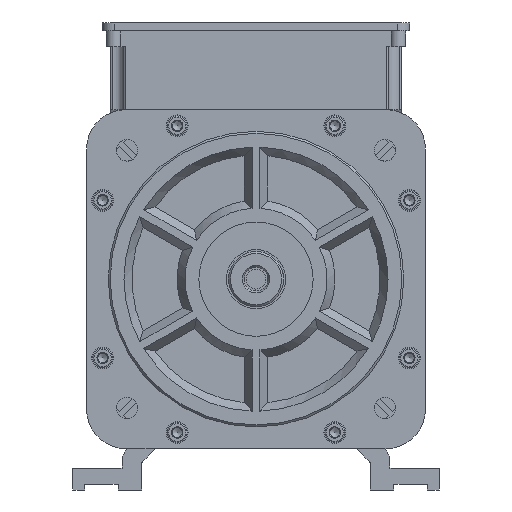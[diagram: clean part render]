
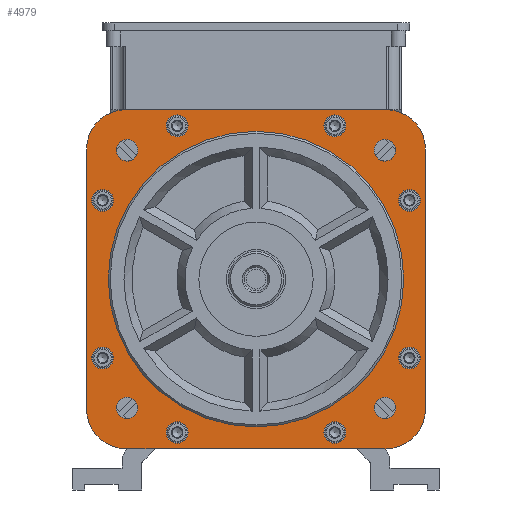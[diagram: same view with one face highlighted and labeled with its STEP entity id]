
A CAD part, front view. The second image highlights one B-rep face of the part: STEP entity #4979.
In plain terms, the highlighted planar face has unit normal (0, -1, 0).
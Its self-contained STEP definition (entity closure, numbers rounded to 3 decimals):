
#3203=FACE_BOUND('',#10745,.T.);
#3204=FACE_BOUND('',#10746,.T.);
#3205=FACE_BOUND('',#10747,.T.);
#3206=FACE_BOUND('',#10748,.T.);
#3207=FACE_BOUND('',#10749,.T.);
#3208=FACE_BOUND('',#10750,.T.);
#3209=FACE_BOUND('',#10751,.T.);
#3210=FACE_BOUND('',#10752,.T.);
#3211=FACE_BOUND('',#10753,.T.);
#3212=FACE_BOUND('',#10754,.T.);
#3213=FACE_BOUND('',#10755,.T.);
#3214=FACE_BOUND('',#10756,.T.);
#3215=FACE_BOUND('',#10757,.T.);
#3216=FACE_BOUND('',#10758,.T.);
#3855=CIRCLE('',#43216,20.);
#3856=CIRCLE('',#43217,20.);
#3857=CIRCLE('',#43218,20.);
#3858=CIRCLE('',#43219,20.);
#3859=CIRCLE('',#43220,5.5);
#3860=CIRCLE('',#43221,5.5);
#3861=CIRCLE('',#43222,5.5);
#3862=CIRCLE('',#43223,5.5);
#3863=CIRCLE('',#43224,5.5);
#3864=CIRCLE('',#43225,5.5);
#3865=CIRCLE('',#43226,5.5);
#3866=CIRCLE('',#43227,5.5);
#3867=CIRCLE('',#43228,5.5);
#3868=CIRCLE('',#43229,5.5);
#3869=CIRCLE('',#43230,5.5);
#3870=CIRCLE('',#43231,5.5);
#3871=CIRCLE('',#43232,75.);
#4979=ADVANCED_FACE('',(#3203,#3204,#3205,#3206,#3207,#3208,#3209,#3210,
#3211,#3212,#3213,#3214,#3215,#3216),#7284,.F.);
#7284=PLANE('',#43233);
#10745=EDGE_LOOP('',(#13695,#13696,#13697,#13698,#13699,#13700,#13701,#13702,
#13703,#13704));
#10746=EDGE_LOOP('',(#13705));
#10747=EDGE_LOOP('',(#13706));
#10748=EDGE_LOOP('',(#13707));
#10749=EDGE_LOOP('',(#13708));
#10750=EDGE_LOOP('',(#13709));
#10751=EDGE_LOOP('',(#13710));
#10752=EDGE_LOOP('',(#13711));
#10753=EDGE_LOOP('',(#13712));
#10754=EDGE_LOOP('',(#13713));
#10755=EDGE_LOOP('',(#13714));
#10756=EDGE_LOOP('',(#13715));
#10757=EDGE_LOOP('',(#13716));
#10758=EDGE_LOOP('',(#13717));
#13695=ORIENTED_EDGE('',*,*,#30085,.T.);
#13696=ORIENTED_EDGE('',*,*,#30086,.T.);
#13697=ORIENTED_EDGE('',*,*,#30087,.F.);
#13698=ORIENTED_EDGE('',*,*,#30088,.F.);
#13699=ORIENTED_EDGE('',*,*,#30089,.T.);
#13700=ORIENTED_EDGE('',*,*,#30090,.F.);
#13701=ORIENTED_EDGE('',*,*,#30091,.T.);
#13702=ORIENTED_EDGE('',*,*,#30092,.T.);
#13703=ORIENTED_EDGE('',*,*,#30093,.T.);
#13704=ORIENTED_EDGE('',*,*,#30094,.T.);
#13705=ORIENTED_EDGE('',*,*,#30095,.T.);
#13706=ORIENTED_EDGE('',*,*,#30096,.F.);
#13707=ORIENTED_EDGE('',*,*,#30097,.F.);
#13708=ORIENTED_EDGE('',*,*,#30098,.T.);
#13709=ORIENTED_EDGE('',*,*,#30099,.T.);
#13710=ORIENTED_EDGE('',*,*,#30100,.T.);
#13711=ORIENTED_EDGE('',*,*,#30101,.F.);
#13712=ORIENTED_EDGE('',*,*,#30102,.T.);
#13713=ORIENTED_EDGE('',*,*,#30103,.T.);
#13714=ORIENTED_EDGE('',*,*,#30104,.T.);
#13715=ORIENTED_EDGE('',*,*,#30105,.T.);
#13716=ORIENTED_EDGE('',*,*,#30106,.T.);
#13717=ORIENTED_EDGE('',*,*,#30107,.F.);
#25963=VERTEX_POINT('',#56155);
#25964=VERTEX_POINT('',#56156);
#25965=VERTEX_POINT('',#56158);
#25966=VERTEX_POINT('',#56160);
#25967=VERTEX_POINT('',#56162);
#25968=VERTEX_POINT('',#56164);
#25969=VERTEX_POINT('',#56166);
#25970=VERTEX_POINT('',#56168);
#25971=VERTEX_POINT('',#56170);
#25972=VERTEX_POINT('',#56172);
#25973=VERTEX_POINT('',#56175);
#25974=VERTEX_POINT('',#56177);
#25975=VERTEX_POINT('',#56179);
#25976=VERTEX_POINT('',#56181);
#25977=VERTEX_POINT('',#56183);
#25978=VERTEX_POINT('',#56185);
#25979=VERTEX_POINT('',#56187);
#25980=VERTEX_POINT('',#56189);
#25981=VERTEX_POINT('',#56191);
#25982=VERTEX_POINT('',#56193);
#25983=VERTEX_POINT('',#56195);
#25984=VERTEX_POINT('',#56197);
#25985=VERTEX_POINT('',#56199);
#30085=EDGE_CURVE('',#25963,#25964,#36173,.T.);
#30086=EDGE_CURVE('',#25964,#25965,#3855,.T.);
#30087=EDGE_CURVE('',#25966,#25965,#36174,.T.);
#30088=EDGE_CURVE('',#25967,#25966,#36175,.T.);
#30089=EDGE_CURVE('',#25967,#25968,#3856,.T.);
#30090=EDGE_CURVE('',#25969,#25968,#36176,.T.);
#30091=EDGE_CURVE('',#25969,#25970,#3857,.T.);
#30092=EDGE_CURVE('',#25970,#25971,#36177,.T.);
#30093=EDGE_CURVE('',#25971,#25972,#36178,.T.);
#30094=EDGE_CURVE('',#25972,#25963,#3858,.T.);
#30095=EDGE_CURVE('',#25973,#25973,#3859,.T.);
#30096=EDGE_CURVE('',#25974,#25974,#3860,.T.);
#30097=EDGE_CURVE('',#25975,#25975,#3861,.T.);
#30098=EDGE_CURVE('',#25976,#25976,#3862,.T.);
#30099=EDGE_CURVE('',#25977,#25977,#3863,.T.);
#30100=EDGE_CURVE('',#25978,#25978,#3864,.T.);
#30101=EDGE_CURVE('',#25979,#25979,#3865,.T.);
#30102=EDGE_CURVE('',#25980,#25980,#3866,.T.);
#30103=EDGE_CURVE('',#25981,#25981,#3867,.T.);
#30104=EDGE_CURVE('',#25982,#25982,#3868,.T.);
#30105=EDGE_CURVE('',#25983,#25983,#3869,.T.);
#30106=EDGE_CURVE('',#25984,#25984,#3870,.T.);
#30107=EDGE_CURVE('',#25985,#25985,#3871,.T.);
#36173=LINE('',#56154,#39529);
#36174=LINE('',#56159,#39530);
#36175=LINE('',#56161,#39531);
#36176=LINE('',#56165,#39532);
#36177=LINE('',#56169,#39533);
#36178=LINE('',#56171,#39534);
#39529=VECTOR('',#46387,1.);
#39530=VECTOR('',#46390,1.);
#39531=VECTOR('',#46391,1.);
#39532=VECTOR('',#46394,1.);
#39533=VECTOR('',#46397,1.);
#39534=VECTOR('',#46398,1.);
#43216=AXIS2_PLACEMENT_3D('',#56157,#46388,#46389);
#43217=AXIS2_PLACEMENT_3D('',#56163,#46392,#46393);
#43218=AXIS2_PLACEMENT_3D('',#56167,#46395,#46396);
#43219=AXIS2_PLACEMENT_3D('',#56173,#46399,#46400);
#43220=AXIS2_PLACEMENT_3D('',#56174,#46401,#46402);
#43221=AXIS2_PLACEMENT_3D('',#56176,#46403,#46404);
#43222=AXIS2_PLACEMENT_3D('',#56178,#46405,#46406);
#43223=AXIS2_PLACEMENT_3D('',#56180,#46407,#46408);
#43224=AXIS2_PLACEMENT_3D('',#56182,#46409,#46410);
#43225=AXIS2_PLACEMENT_3D('',#56184,#46411,#46412);
#43226=AXIS2_PLACEMENT_3D('',#56186,#46413,#46414);
#43227=AXIS2_PLACEMENT_3D('',#56188,#46415,#46416);
#43228=AXIS2_PLACEMENT_3D('',#56190,#46417,#46418);
#43229=AXIS2_PLACEMENT_3D('',#56192,#46419,#46420);
#43230=AXIS2_PLACEMENT_3D('',#56194,#46421,#46422);
#43231=AXIS2_PLACEMENT_3D('',#56196,#46423,#46424);
#43232=AXIS2_PLACEMENT_3D('',#56198,#46425,#46426);
#43233=AXIS2_PLACEMENT_3D('',#56200,#46427,#46428);
#46387=DIRECTION('',(0.,0.,-1.));
#46388=DIRECTION('',(0.,-1.,0.));
#46389=DIRECTION('',(0.,0.,-1.));
#46390=DIRECTION('',(-1.,0.,0.));
#46391=DIRECTION('',(-1.,0.,0.));
#46392=DIRECTION('',(0.,-1.,0.));
#46393=DIRECTION('',(0.,0.,-1.));
#46394=DIRECTION('',(0.,0.,-1.));
#46395=DIRECTION('',(0.,-1.,0.));
#46396=DIRECTION('',(0.,0.,-1.));
#46397=DIRECTION('',(-1.,0.,0.));
#46398=DIRECTION('',(-1.,0.,0.));
#46399=DIRECTION('',(0.,-1.,0.));
#46400=DIRECTION('',(0.,0.,-1.));
#46401=DIRECTION('',(0.,1.,0.));
#46402=DIRECTION('',(0.,0.,-1.));
#46403=DIRECTION('',(0.,-1.,0.));
#46404=DIRECTION('',(0.,0.,-1.));
#46405=DIRECTION('',(0.,-1.,0.));
#46406=DIRECTION('',(0.,0.,-1.));
#46407=DIRECTION('',(0.,1.,0.));
#46408=DIRECTION('',(0.,0.,-1.));
#46409=DIRECTION('',(0.,1.,0.));
#46410=DIRECTION('',(0.,0.,-1.));
#46411=DIRECTION('',(0.,1.,0.));
#46412=DIRECTION('',(0.,0.,-1.));
#46413=DIRECTION('',(0.,-1.,0.));
#46414=DIRECTION('',(0.,0.,-1.));
#46415=DIRECTION('',(0.,1.,0.));
#46416=DIRECTION('',(0.,0.,-1.));
#46417=DIRECTION('',(0.,1.,0.));
#46418=DIRECTION('',(-0.707,0.,0.707));
#46419=DIRECTION('',(0.,1.,0.));
#46420=DIRECTION('',(-0.707,0.,-0.707));
#46421=DIRECTION('',(0.,1.,0.));
#46422=DIRECTION('',(0.707,0.,0.707));
#46423=DIRECTION('',(0.,1.,0.));
#46424=DIRECTION('',(0.707,0.,-0.707));
#46425=DIRECTION('',(0.,-1.,0.));
#46426=DIRECTION('',(0.,0.,-1.));
#46427=DIRECTION('',(0.,1.,0.));
#46428=DIRECTION('',(0.,0.,-1.));
#56154=CARTESIAN_POINT('',(-99.291,58.45,89.85));
#56155=CARTESIAN_POINT('',(-99.291,58.45,156.));
#56156=CARTESIAN_POINT('',(-99.291,58.45,24.));
#56157=CARTESIAN_POINT('',(-79.291,58.45,24.));
#56158=CARTESIAN_POINT('',(-79.291,58.45,4.));
#56159=CARTESIAN_POINT('',(-13.141,58.45,4.));
#56160=CARTESIAN_POINT('',(51.496,58.45,4.));
#56161=CARTESIAN_POINT('',(-13.141,58.45,4.));
#56162=CARTESIAN_POINT('',(52.709,58.45,4.));
#56163=CARTESIAN_POINT('',(52.709,58.45,24.));
#56164=CARTESIAN_POINT('',(72.709,58.45,24.));
#56165=CARTESIAN_POINT('',(72.709,58.45,90.));
#56166=CARTESIAN_POINT('',(72.709,58.45,156.));
#56167=CARTESIAN_POINT('',(52.709,58.45,156.));
#56168=CARTESIAN_POINT('',(52.709,58.45,176.));
#56169=CARTESIAN_POINT('',(-13.441,58.45,176.));
#56170=CARTESIAN_POINT('',(-72.291,58.45,176.));
#56171=CARTESIAN_POINT('',(-13.441,58.45,176.));
#56172=CARTESIAN_POINT('',(-79.291,58.45,176.));
#56173=CARTESIAN_POINT('',(-79.291,58.45,156.));
#56174=CARTESIAN_POINT('',(64.531,58.45,50.));
#56175=CARTESIAN_POINT('',(64.531,58.45,44.5));
#56176=CARTESIAN_POINT('',(64.531,58.45,130.));
#56177=CARTESIAN_POINT('',(64.531,58.45,124.5));
#56178=CARTESIAN_POINT('',(26.709,58.45,12.178));
#56179=CARTESIAN_POINT('',(26.709,58.45,6.678));
#56180=CARTESIAN_POINT('',(26.709,58.45,167.822));
#56181=CARTESIAN_POINT('',(26.709,58.45,162.322));
#56182=CARTESIAN_POINT('',(-53.291,58.45,12.178));
#56183=CARTESIAN_POINT('',(-53.291,58.45,6.678));
#56184=CARTESIAN_POINT('',(-53.291,58.45,167.822));
#56185=CARTESIAN_POINT('',(-53.291,58.45,162.322));
#56186=CARTESIAN_POINT('',(-91.112,58.45,50.));
#56187=CARTESIAN_POINT('',(-91.112,58.45,44.5));
#56188=CARTESIAN_POINT('',(-91.112,58.45,130.));
#56189=CARTESIAN_POINT('',(-91.112,58.45,124.5));
#56190=CARTESIAN_POINT('',(52.117,58.45,24.593));
#56191=CARTESIAN_POINT('',(48.228,58.45,28.482));
#56192=CARTESIAN_POINT('',(52.117,58.45,155.407));
#56193=CARTESIAN_POINT('',(48.228,58.45,151.518));
#56194=CARTESIAN_POINT('',(-78.698,58.45,24.593));
#56195=CARTESIAN_POINT('',(-74.809,58.45,28.482));
#56196=CARTESIAN_POINT('',(-78.698,58.45,155.407));
#56197=CARTESIAN_POINT('',(-74.809,58.45,151.518));
#56198=CARTESIAN_POINT('',(-13.291,58.45,90.));
#56199=CARTESIAN_POINT('',(-13.291,58.45,15.));
#56200=CARTESIAN_POINT('',(-13.291,58.45,90.));
